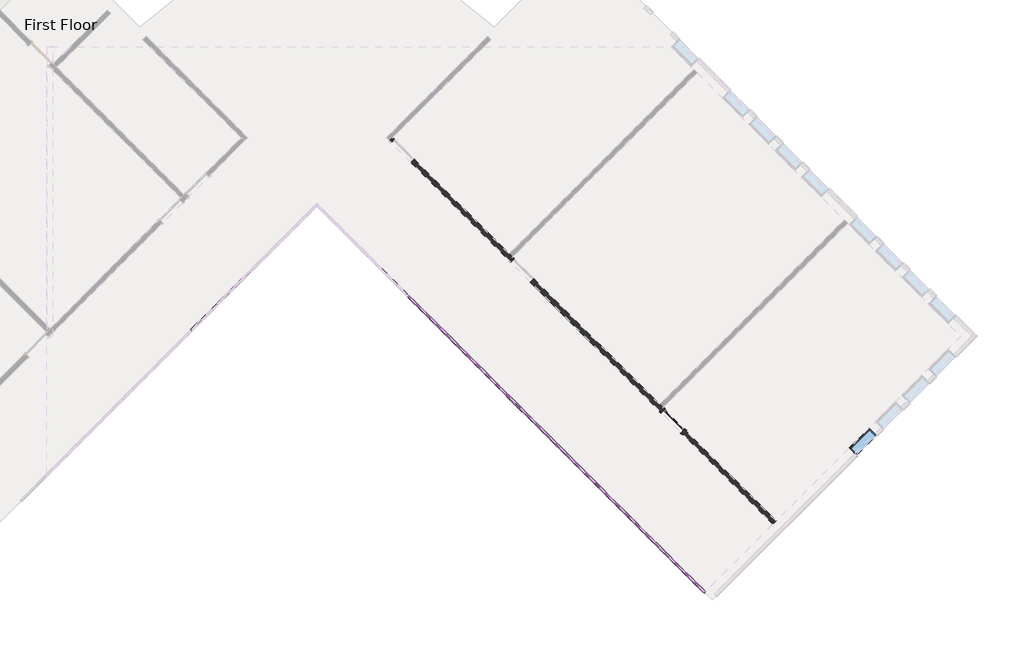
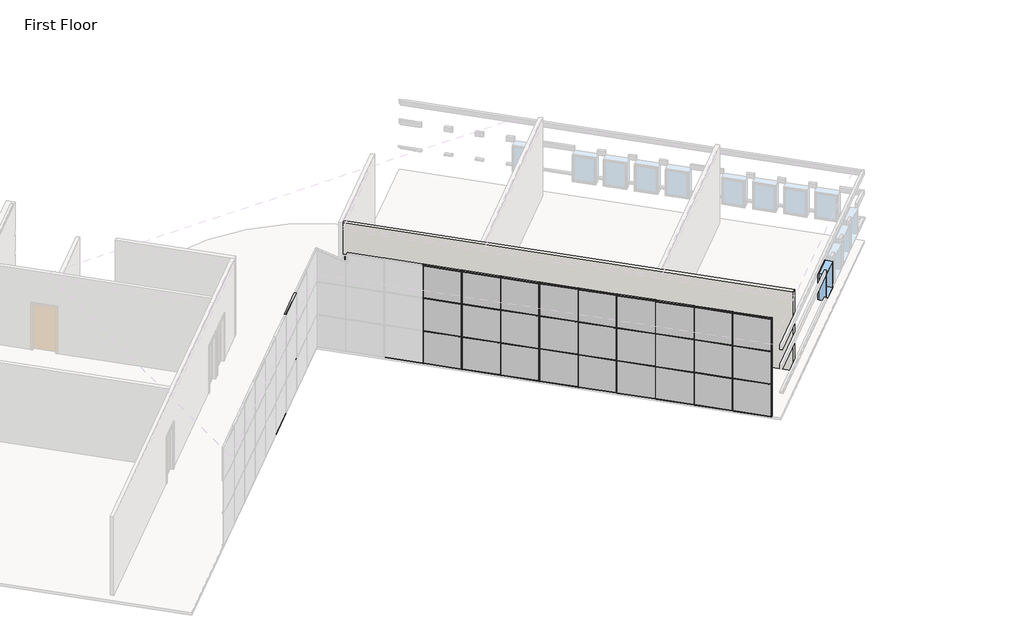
# One storey, part 2 of 5: 71 members, 27 plates, 1 door, 1 wall, 1 window.
"""IFC4 building model written with IfcOpenShell, lengths in millimetres."""

from ifc_helpers import new_model, si_unit, origin, place, context, project, spatial, faceted_brep, transform, mapped, element, save
from components import door_5f5b55da, member_6121af53, member_155beb68, member_f5090587, member_42be4715, member_b8a5b5c0, member_b87a50da, system_panel_glazed_f8555db4, system_panel_glazed_da345f4e, system_panel_glazed_d4009c89, system_panel_glazed_f1e4c5b0, system_panel_solid_99f695d0, system_panel_solid_2f1037e2, window_15c49d37

model = new_model("IFC4")

# Units and contexts
model_context = context("Model", 3, world=origin())
ifc_project = project(units=[si_unit("LENGTHUNIT", "METRE", prefix="MILLI")], contexts=[model_context])

# Site, building, storey
site = spatial("IfcSite", under=ifc_project)
building = spatial("IfcBuilding", under=site)
storey = spatial("IfcBuildingStorey", under=building, Name="First Floor", Elevation=0.0)

# Door
placement = place(None, origin())
door_shape = door_5f5b55da(model_context)
element("IfcDoor", 1, ObjectType="Single-Glass 1 : 36\" x 84\"", at=placement, inside=storey, context=model_context, shape_type="MappedRepresentation", body=[
    mapped(door_shape, transform((8770.3835686, -4126.1534594, 0.0), x_axis=(-0.7071067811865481, 0.7071067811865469, 0.0), y_axis=(-0.7071067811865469, -0.7071067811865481, 0.0), z_axis=(0.0, 0.0, 1.0))),
])

# Members
member_shape = member_6121af53(model_context)
element("IfcMember", 2, ObjectType="Rectangular Mullion : 1.5\" x 2.5\" Rectangular", at=placement, inside=storey, context=model_context, shape_type="MappedRepresentation", body=[
    mapped(member_shape, transform((-6087.4501837, -266.8883914, 4572.0), x_axis=(0.0, 0.0, 1.0), y_axis=(-0.7071067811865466, 0.7071067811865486, 0.0), z_axis=(-0.7071067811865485, -0.7071067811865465, 0.0))),
])
element("IfcMember", 3, ObjectType="Rectangular Mullion : 1.5\" x 2.5\" Rectangular", at=placement, inside=storey, context=model_context, shape_type="MappedRepresentation", body=[
    mapped(member_shape, transform((2284.3935852, -2199.8885214, 4572.0), x_axis=(0.0, 0.0, 1.0), y_axis=(0.7071067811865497, 0.7071067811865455, 0.0), z_axis=(-0.7071067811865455, 0.7071067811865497, 0.0))),
])
element("IfcMember", 4, ObjectType="Rectangular Mullion : 1.5\" x 2.5\" Rectangular", at=placement, inside=storey, context=model_context, shape_type="MappedRepresentation", body=[
    mapped(member_shape, transform((3362.0243197, -3277.519256, 4572.0), x_axis=(0.0, 0.0, 1.0), y_axis=(0.70710678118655, 0.707106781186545, 0.0), z_axis=(-0.707106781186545, 0.70710678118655, 0.0))),
])
element("IfcMember", 5, ObjectType="Rectangular Mullion : 1.5\" x 2.5\" Rectangular", at=placement, inside=storey, context=model_context, shape_type="MappedRepresentation", body=[
    mapped(member_shape, transform((4439.6550542, -4355.1499905, 4572.0), x_axis=(0.0, 0.0, 1.0), y_axis=(0.7071067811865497, 0.7071067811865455, 0.0), z_axis=(-0.7071067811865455, 0.7071067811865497, 0.0))),
])
element("IfcMember", 6, ObjectType="Rectangular Mullion : 1.5\" x 2.5\" Rectangular", at=placement, inside=storey, context=model_context, shape_type="MappedRepresentation", body=[
    mapped(member_shape, transform((5517.2857887, -5432.780725, 4572.0), x_axis=(0.0, 0.0, 1.0), y_axis=(0.7071067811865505, 0.7071067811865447, 0.0), z_axis=(-0.7071067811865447, 0.7071067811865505, 0.0))),
])
element("IfcMember", 7, ObjectType="Rectangular Mullion : 1.5\" x 2.5\" Rectangular", at=placement, inside=storey, context=model_context, shape_type="MappedRepresentation", body=[
    mapped(member_shape, transform((6594.9165233, -6510.4114596, 4572.0), x_axis=(0.0, 0.0, 1.0), y_axis=(0.7071067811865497, 0.7071067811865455, 0.0), z_axis=(-0.7071067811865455, 0.7071067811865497, 0.0))),
])
element("IfcMember", 8, ObjectType="Rectangular Mullion : 1.5\" x 2.5\" Rectangular", at=placement, inside=storey, context=model_context, shape_type="MappedRepresentation", body=[
    mapped(member_shape, transform((7672.5472578, -7588.0421941, 4572.0), x_axis=(0.0, 0.0, 1.0), y_axis=(0.7071067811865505, 0.7071067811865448, 0.0), z_axis=(-0.7071067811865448, 0.7071067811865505, 0.0))),
])
element("IfcMember", 9, ObjectType="Rectangular Mullion : 1.5\" x 2.5\" Rectangular", at=placement, inside=storey, context=model_context, shape_type="MappedRepresentation", body=[
    mapped(member_shape, transform((1206.7628506, -1122.2577869, 4572.0), x_axis=(0.0, 0.0, 1.0), y_axis=(0.70710678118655, 0.707106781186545, 0.0), z_axis=(-0.707106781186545, 0.70710678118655, 0.0))),
])
element("IfcMember", 10, ObjectType="Rectangular Mullion : 1.5\" x 2.5\" Rectangular", at=placement, inside=storey, context=model_context, shape_type="MappedRepresentation", body=[
    mapped(member_shape, transform((129.1321161, -44.6270524, 4572.0), x_axis=(0.0, 0.0, 1.0), y_axis=(0.7071067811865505, 0.7071067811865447, 0.0), z_axis=(-0.7071067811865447, 0.7071067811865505, 0.0))),
])
member_2_shape = member_155beb68(model_context)
element("IfcMember", 11, ObjectType="Rectangular Mullion : 1.5\" x 2.5\" Rectangular", at=placement, inside=storey, context=model_context, shape_type="MappedRepresentation", body=[
    mapped(member_2_shape, transform((5503.8154046, -5419.3103408, 1524.0), x_axis=(-0.7071067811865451, 0.70710678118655, 0.0), y_axis=(0.70710678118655, 0.7071067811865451, 0.0), z_axis=(0.0, 0.0, -1.0))),
])
element("IfcMember", 12, ObjectType="Rectangular Mullion : 1.5\" x 2.5\" Rectangular", at=placement, inside=storey, context=model_context, shape_type="MappedRepresentation", body=[
    mapped(member_2_shape, transform((4426.18467, -4341.6796063, 1524.0), x_axis=(-0.7071067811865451, 0.70710678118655, 0.0), y_axis=(0.70710678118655, 0.7071067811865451, 0.0), z_axis=(0.0, 0.0, -1.0))),
])
element("IfcMember", 13, ObjectType="Rectangular Mullion : 1.5\" x 2.5\" Rectangular", at=placement, inside=storey, context=model_context, shape_type="MappedRepresentation", body=[
    mapped(member_2_shape, transform((3348.5539355, -3264.0488718, 1524.0), x_axis=(-0.7071067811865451, 0.70710678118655, 0.0), y_axis=(0.70710678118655, 0.7071067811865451, 0.0), z_axis=(0.0, 0.0, -1.0))),
])
element("IfcMember", 14, ObjectType="Rectangular Mullion : 1.5\" x 2.5\" Rectangular", at=placement, inside=storey, context=model_context, shape_type="MappedRepresentation", body=[
    mapped(member_2_shape, transform((2270.923201, -2186.4181373, 1524.0), x_axis=(-0.7071067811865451, 0.70710678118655, 0.0), y_axis=(0.70710678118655, 0.7071067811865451, 0.0), z_axis=(0.0, 0.0, -1.0))),
])
element("IfcMember", 15, ObjectType="Rectangular Mullion : 1.5\" x 2.5\" Rectangular", at=placement, inside=storey, context=model_context, shape_type="MappedRepresentation", body=[
    mapped(member_2_shape, transform((1193.2924664, -1108.7874027, 1524.0), x_axis=(-0.7071067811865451, 0.70710678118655, 0.0), y_axis=(0.70710678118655, 0.7071067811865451, 0.0), z_axis=(0.0, 0.0, -1.0))),
])
element("IfcMember", 16, ObjectType="Rectangular Mullion : 1.5\" x 2.5\" Rectangular", at=placement, inside=storey, context=model_context, shape_type="MappedRepresentation", body=[
    mapped(member_2_shape, transform((115.6617319, -31.1566682, 1524.0), x_axis=(-0.7071067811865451, 0.70710678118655, 0.0), y_axis=(0.70710678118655, 0.7071067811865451, 0.0), z_axis=(0.0, 0.0, -1.0))),
])
element("IfcMember", 17, ObjectType="Rectangular Mullion : 1.5\" x 2.5\" Rectangular", at=placement, inside=storey, context=model_context, shape_type="MappedRepresentation", body=[
    mapped(member_2_shape, transform((8736.7076081, -8652.2025444, 1524.0), x_axis=(-0.7071067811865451, 0.70710678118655, 0.0), y_axis=(0.70710678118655, 0.7071067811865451, 0.0), z_axis=(0.0, 0.0, -1.0))),
])
element("IfcMember", 18, ObjectType="Rectangular Mullion : 1.5\" x 2.5\" Rectangular", at=placement, inside=storey, context=model_context, shape_type="MappedRepresentation", body=[
    mapped(member_2_shape, transform((7659.0768736, -7574.5718099, 1524.0), x_axis=(-0.7071067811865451, 0.70710678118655, 0.0), y_axis=(0.70710678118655, 0.7071067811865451, 0.0), z_axis=(0.0, 0.0, -1.0))),
])
element("IfcMember", 19, ObjectType="Rectangular Mullion : 1.5\" x 2.5\" Rectangular", at=placement, inside=storey, context=model_context, shape_type="MappedRepresentation", body=[
    mapped(member_2_shape, transform((6581.4461391, -6496.9410754, 1524.0), x_axis=(-0.7071067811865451, 0.70710678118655, 0.0), y_axis=(0.70710678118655, 0.7071067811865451, 0.0), z_axis=(0.0, 0.0, -1.0))),
])
element("IfcMember", 20, ObjectType="Rectangular Mullion : 1.5\" x 2.5\" Rectangular", at=placement, inside=storey, context=model_context, shape_type="MappedRepresentation", body=[
    mapped(member_2_shape, transform((5503.8154046, -5419.3103408, 3048.0), x_axis=(-0.7071067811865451, 0.70710678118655, 0.0), y_axis=(0.70710678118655, 0.7071067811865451, 0.0), z_axis=(0.0, 0.0, -1.0))),
])
element("IfcMember", 21, ObjectType="Rectangular Mullion : 1.5\" x 2.5\" Rectangular", at=placement, inside=storey, context=model_context, shape_type="MappedRepresentation", body=[
    mapped(member_2_shape, transform((4426.18467, -4341.6796063, 3048.0), x_axis=(-0.7071067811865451, 0.70710678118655, 0.0), y_axis=(0.70710678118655, 0.7071067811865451, 0.0), z_axis=(0.0, 0.0, -1.0))),
])
element("IfcMember", 22, ObjectType="Rectangular Mullion : 1.5\" x 2.5\" Rectangular", at=placement, inside=storey, context=model_context, shape_type="MappedRepresentation", body=[
    mapped(member_2_shape, transform((3348.5539355, -3264.0488718, 3048.0), x_axis=(-0.7071067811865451, 0.70710678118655, 0.0), y_axis=(0.70710678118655, 0.7071067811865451, 0.0), z_axis=(0.0, 0.0, -1.0))),
])
element("IfcMember", 23, ObjectType="Rectangular Mullion : 1.5\" x 2.5\" Rectangular", at=placement, inside=storey, context=model_context, shape_type="MappedRepresentation", body=[
    mapped(member_2_shape, transform((2270.923201, -2186.4181373, 3048.0), x_axis=(-0.7071067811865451, 0.70710678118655, 0.0), y_axis=(0.70710678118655, 0.7071067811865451, 0.0), z_axis=(0.0, 0.0, -1.0))),
])
element("IfcMember", 24, ObjectType="Rectangular Mullion : 1.5\" x 2.5\" Rectangular", at=placement, inside=storey, context=model_context, shape_type="MappedRepresentation", body=[
    mapped(member_2_shape, transform((1193.2924664, -1108.7874027, 3048.0), x_axis=(-0.7071067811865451, 0.70710678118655, 0.0), y_axis=(0.70710678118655, 0.7071067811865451, 0.0), z_axis=(0.0, 0.0, -1.0))),
])
element("IfcMember", 25, ObjectType="Rectangular Mullion : 1.5\" x 2.5\" Rectangular", at=placement, inside=storey, context=model_context, shape_type="MappedRepresentation", body=[
    mapped(member_2_shape, transform((115.6617319, -31.1566682, 3048.0), x_axis=(-0.7071067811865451, 0.70710678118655, 0.0), y_axis=(0.70710678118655, 0.7071067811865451, 0.0), z_axis=(0.0, 0.0, -1.0))),
])
element("IfcMember", 26, ObjectType="Rectangular Mullion : 1.5\" x 2.5\" Rectangular", at=placement, inside=storey, context=model_context, shape_type="MappedRepresentation", body=[
    mapped(member_2_shape, transform((8736.7076081, -8652.2025444, 3048.0), x_axis=(-0.7071067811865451, 0.70710678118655, 0.0), y_axis=(0.70710678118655, 0.7071067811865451, 0.0), z_axis=(0.0, 0.0, -1.0))),
])
element("IfcMember", 27, ObjectType="Rectangular Mullion : 1.5\" x 2.5\" Rectangular", at=placement, inside=storey, context=model_context, shape_type="MappedRepresentation", body=[
    mapped(member_2_shape, transform((7659.0768736, -7574.5718099, 3048.0), x_axis=(-0.7071067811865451, 0.70710678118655, 0.0), y_axis=(0.70710678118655, 0.7071067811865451, 0.0), z_axis=(0.0, 0.0, -1.0))),
])
element("IfcMember", 28, ObjectType="Rectangular Mullion : 1.5\" x 2.5\" Rectangular", at=placement, inside=storey, context=model_context, shape_type="MappedRepresentation", body=[
    mapped(member_2_shape, transform((6581.4461391, -6496.9410754, 3048.0), x_axis=(-0.7071067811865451, 0.70710678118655, 0.0), y_axis=(0.70710678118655, 0.7071067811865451, 0.0), z_axis=(0.0, 0.0, -1.0))),
])
element("IfcMember", 29, ObjectType="Rectangular Mullion : 1.5\" x 2.5\" Rectangular", at=placement, inside=storey, context=model_context, shape_type="MappedRepresentation", body=[
    mapped(member_2_shape, transform((-6100.9205679, -280.3587756, 0.0), x_axis=(-0.7071067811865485, -0.7071067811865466, 0.0), y_axis=(-0.7071067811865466, 0.7071067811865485, 0.0), z_axis=(0.0, 0.0, -1.0))),
])
element("IfcMember", 30, ObjectType="Rectangular Mullion : 1.5\" x 2.5\" Rectangular", at=placement, inside=storey, context=model_context, shape_type="MappedRepresentation", body=[
    mapped(member_2_shape, transform((115.6617319, -31.1566682, 0.0), x_axis=(-0.7071067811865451, 0.70710678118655, 0.0), y_axis=(0.70710678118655, 0.7071067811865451, 0.0), z_axis=(0.0, 0.0, -1.0))),
])
element("IfcMember", 31, ObjectType="Rectangular Mullion : 1.5\" x 2.5\" Rectangular", at=placement, inside=storey, context=model_context, shape_type="MappedRepresentation", body=[
    mapped(member_2_shape, transform((1193.2924664, -1108.7874027, 0.0), x_axis=(-0.7071067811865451, 0.70710678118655, 0.0), y_axis=(0.70710678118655, 0.7071067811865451, 0.0), z_axis=(0.0, 0.0, -1.0))),
])
element("IfcMember", 32, ObjectType="Rectangular Mullion : 1.5\" x 2.5\" Rectangular", at=placement, inside=storey, context=model_context, shape_type="MappedRepresentation", body=[
    mapped(member_2_shape, transform((2270.923201, -2186.4181373, 0.0), x_axis=(-0.7071067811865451, 0.70710678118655, 0.0), y_axis=(0.70710678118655, 0.7071067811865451, 0.0), z_axis=(0.0, 0.0, -1.0))),
])
element("IfcMember", 33, ObjectType="Rectangular Mullion : 1.5\" x 2.5\" Rectangular", at=placement, inside=storey, context=model_context, shape_type="MappedRepresentation", body=[
    mapped(member_2_shape, transform((3348.5539355, -3264.0488718, 0.0), x_axis=(-0.7071067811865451, 0.70710678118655, 0.0), y_axis=(0.70710678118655, 0.7071067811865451, 0.0), z_axis=(0.0, 0.0, -1.0))),
])
element("IfcMember", 34, ObjectType="Rectangular Mullion : 1.5\" x 2.5\" Rectangular", at=placement, inside=storey, context=model_context, shape_type="MappedRepresentation", body=[
    mapped(member_2_shape, transform((4426.18467, -4341.6796063, 0.0), x_axis=(-0.7071067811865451, 0.70710678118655, 0.0), y_axis=(0.70710678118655, 0.7071067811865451, 0.0), z_axis=(0.0, 0.0, -1.0))),
])
element("IfcMember", 35, ObjectType="Rectangular Mullion : 1.5\" x 2.5\" Rectangular", at=placement, inside=storey, context=model_context, shape_type="MappedRepresentation", body=[
    mapped(member_2_shape, transform((5503.8154046, -5419.3103408, 0.0), x_axis=(-0.7071067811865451, 0.70710678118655, 0.0), y_axis=(0.70710678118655, 0.7071067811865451, 0.0), z_axis=(0.0, 0.0, -1.0))),
])
element("IfcMember", 36, ObjectType="Rectangular Mullion : 1.5\" x 2.5\" Rectangular", at=placement, inside=storey, context=model_context, shape_type="MappedRepresentation", body=[
    mapped(member_2_shape, transform((6581.4461391, -6496.9410754, 0.0), x_axis=(-0.7071067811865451, 0.70710678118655, 0.0), y_axis=(0.70710678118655, 0.7071067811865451, 0.0), z_axis=(0.0, 0.0, -1.0))),
])
element("IfcMember", 37, ObjectType="Rectangular Mullion : 1.5\" x 2.5\" Rectangular", at=placement, inside=storey, context=model_context, shape_type="MappedRepresentation", body=[
    mapped(member_2_shape, transform((7659.0768736, -7574.5718099, 0.0), x_axis=(-0.7071067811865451, 0.70710678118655, 0.0), y_axis=(0.70710678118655, 0.7071067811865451, 0.0), z_axis=(0.0, 0.0, -1.0))),
])
element("IfcMember", 38, ObjectType="Rectangular Mullion : 1.5\" x 2.5\" Rectangular", at=placement, inside=storey, context=model_context, shape_type="MappedRepresentation", body=[
    mapped(member_2_shape, transform((8736.7076081, -8652.2025444, 0.0), x_axis=(-0.7071067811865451, 0.70710678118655, 0.0), y_axis=(0.70710678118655, 0.7071067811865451, 0.0), z_axis=(0.0, 0.0, -1.0))),
])
member_3_shape = member_f5090587(model_context)
element("IfcMember", 39, ObjectType="Rectangular Mullion : 1.5\" x 2.5\" Rectangular", at=placement, inside=storey, context=model_context, shape_type="MappedRepresentation", body=[
    mapped(member_3_shape, transform((8750.1779923, -8665.6729286, 3048.0), x_axis=(0.0, 0.0, 1.0), y_axis=(0.70710678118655, 0.707106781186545, 0.0), z_axis=(-0.7071067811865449, 0.7071067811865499, 0.0))),
])
element("IfcMember", 40, ObjectType="Rectangular Mullion : 1.5\" x 2.5\" Rectangular", at=placement, inside=storey, context=model_context, shape_type="MappedRepresentation", body=[
    mapped(member_3_shape, transform((8750.1779923, -8665.6729286, 1524.0), x_axis=(0.0, 0.0, 1.0), y_axis=(0.7071067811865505, 0.7071067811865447, 0.0), z_axis=(-0.7071067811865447, 0.7071067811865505, 0.0))),
])
member_4_shape = member_42be4715(model_context)
element("IfcMember", 41, ObjectType="Rectangular Mullion : 1.5\" x 2.5\" Rectangular", at=placement, inside=storey, context=model_context, shape_type="MappedRepresentation", body=[
    mapped(member_4_shape, transform((-6087.4501837, -266.8883914, 1524.0), x_axis=(0.0, 0.0, 1.0), y_axis=(-0.7071067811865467, 0.7071067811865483, 0.0), z_axis=(-0.7071067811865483, -0.7071067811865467, 0.0))),
])
element("IfcMember", 42, ObjectType="Rectangular Mullion : 1.5\" x 2.5\" Rectangular", at=placement, inside=storey, context=model_context, shape_type="MappedRepresentation", body=[
    mapped(member_4_shape, transform((129.1321161, -44.6270524, 3048.0), x_axis=(0.0, 0.0, 1.0), y_axis=(0.7071067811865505, 0.7071067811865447, 0.0), z_axis=(-0.7071067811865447, 0.7071067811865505, 0.0))),
])
element("IfcMember", 43, ObjectType="Rectangular Mullion : 1.5\" x 2.5\" Rectangular", at=placement, inside=storey, context=model_context, shape_type="MappedRepresentation", body=[
    mapped(member_4_shape, transform((1206.7628506, -1122.2577869, 3048.0), x_axis=(0.0, 0.0, 1.0), y_axis=(0.70710678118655, 0.707106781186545, 0.0), z_axis=(-0.707106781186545, 0.70710678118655, 0.0))),
])
element("IfcMember", 44, ObjectType="Rectangular Mullion : 1.5\" x 2.5\" Rectangular", at=placement, inside=storey, context=model_context, shape_type="MappedRepresentation", body=[
    mapped(member_4_shape, transform((2284.3935852, -2199.8885214, 3048.0), x_axis=(0.0, 0.0, 1.0), y_axis=(0.7071067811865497, 0.7071067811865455, 0.0), z_axis=(-0.7071067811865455, 0.7071067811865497, 0.0))),
])
element("IfcMember", 45, ObjectType="Rectangular Mullion : 1.5\" x 2.5\" Rectangular", at=placement, inside=storey, context=model_context, shape_type="MappedRepresentation", body=[
    mapped(member_4_shape, transform((3362.0243197, -3277.519256, 3048.0), x_axis=(0.0, 0.0, 1.0), y_axis=(0.70710678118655, 0.707106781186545, 0.0), z_axis=(-0.707106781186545, 0.70710678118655, 0.0))),
])
element("IfcMember", 46, ObjectType="Rectangular Mullion : 1.5\" x 2.5\" Rectangular", at=placement, inside=storey, context=model_context, shape_type="MappedRepresentation", body=[
    mapped(member_4_shape, transform((4439.6550542, -4355.1499905, 3048.0), x_axis=(0.0, 0.0, 1.0), y_axis=(0.7071067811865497, 0.7071067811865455, 0.0), z_axis=(-0.7071067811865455, 0.7071067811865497, 0.0))),
])
element("IfcMember", 47, ObjectType="Rectangular Mullion : 1.5\" x 2.5\" Rectangular", at=placement, inside=storey, context=model_context, shape_type="MappedRepresentation", body=[
    mapped(member_4_shape, transform((5517.2857887, -5432.780725, 3048.0), x_axis=(0.0, 0.0, 1.0), y_axis=(0.7071067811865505, 0.7071067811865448, 0.0), z_axis=(-0.7071067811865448, 0.7071067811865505, 0.0))),
])
element("IfcMember", 48, ObjectType="Rectangular Mullion : 1.5\" x 2.5\" Rectangular", at=placement, inside=storey, context=model_context, shape_type="MappedRepresentation", body=[
    mapped(member_4_shape, transform((6594.9165233, -6510.4114596, 3048.0), x_axis=(0.0, 0.0, 1.0), y_axis=(0.7071067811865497, 0.7071067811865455, 0.0), z_axis=(-0.7071067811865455, 0.7071067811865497, 0.0))),
])
element("IfcMember", 49, ObjectType="Rectangular Mullion : 1.5\" x 2.5\" Rectangular", at=placement, inside=storey, context=model_context, shape_type="MappedRepresentation", body=[
    mapped(member_4_shape, transform((7672.5472578, -7588.0421941, 3048.0), x_axis=(0.0, 0.0, 1.0), y_axis=(0.7071067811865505, 0.7071067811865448, 0.0), z_axis=(-0.7071067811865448, 0.7071067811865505, 0.0))),
])
element("IfcMember", 50, ObjectType="Rectangular Mullion : 1.5\" x 2.5\" Rectangular", at=placement, inside=storey, context=model_context, shape_type="MappedRepresentation", body=[
    mapped(member_4_shape, transform((129.1321161, -44.6270524, 1524.0), x_axis=(0.0, 0.0, 1.0), y_axis=(0.7071067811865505, 0.7071067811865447, 0.0), z_axis=(-0.7071067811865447, 0.7071067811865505, 0.0))),
])
element("IfcMember", 51, ObjectType="Rectangular Mullion : 1.5\" x 2.5\" Rectangular", at=placement, inside=storey, context=model_context, shape_type="MappedRepresentation", body=[
    mapped(member_4_shape, transform((1206.7628506, -1122.2577869, 1524.0), x_axis=(0.0, 0.0, 1.0), y_axis=(0.7071067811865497, 0.7071067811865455, 0.0), z_axis=(-0.7071067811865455, 0.7071067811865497, 0.0))),
])
element("IfcMember", 52, ObjectType="Rectangular Mullion : 1.5\" x 2.5\" Rectangular", at=placement, inside=storey, context=model_context, shape_type="MappedRepresentation", body=[
    mapped(member_4_shape, transform((2284.3935852, -2199.8885214, 1524.0), x_axis=(0.0, 0.0, 1.0), y_axis=(0.70710678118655, 0.707106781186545, 0.0), z_axis=(-0.707106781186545, 0.70710678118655, 0.0))),
])
element("IfcMember", 53, ObjectType="Rectangular Mullion : 1.5\" x 2.5\" Rectangular", at=placement, inside=storey, context=model_context, shape_type="MappedRepresentation", body=[
    mapped(member_4_shape, transform((3362.0243197, -3277.519256, 1524.0), x_axis=(0.0, 0.0, 1.0), y_axis=(0.70710678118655, 0.707106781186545, 0.0), z_axis=(-0.707106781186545, 0.70710678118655, 0.0))),
])
element("IfcMember", 54, ObjectType="Rectangular Mullion : 1.5\" x 2.5\" Rectangular", at=placement, inside=storey, context=model_context, shape_type="MappedRepresentation", body=[
    mapped(member_4_shape, transform((4439.6550542, -4355.1499905, 1524.0), x_axis=(0.0, 0.0, 1.0), y_axis=(0.7071067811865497, 0.7071067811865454, 0.0), z_axis=(-0.7071067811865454, 0.7071067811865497, 0.0))),
])
element("IfcMember", 55, ObjectType="Rectangular Mullion : 1.5\" x 2.5\" Rectangular", at=placement, inside=storey, context=model_context, shape_type="MappedRepresentation", body=[
    mapped(member_4_shape, transform((5517.2857887, -5432.780725, 1524.0), x_axis=(0.0, 0.0, 1.0), y_axis=(0.7071067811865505, 0.7071067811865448, 0.0), z_axis=(-0.7071067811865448, 0.7071067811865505, 0.0))),
])
element("IfcMember", 56, ObjectType="Rectangular Mullion : 1.5\" x 2.5\" Rectangular", at=placement, inside=storey, context=model_context, shape_type="MappedRepresentation", body=[
    mapped(member_4_shape, transform((6594.9165233, -6510.4114596, 1524.0), x_axis=(0.0, 0.0, 1.0), y_axis=(0.7071067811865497, 0.7071067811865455, 0.0), z_axis=(-0.7071067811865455, 0.7071067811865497, 0.0))),
])
element("IfcMember", 57, ObjectType="Rectangular Mullion : 1.5\" x 2.5\" Rectangular", at=placement, inside=storey, context=model_context, shape_type="MappedRepresentation", body=[
    mapped(member_4_shape, transform((7672.5472578, -7588.0421941, 1524.0), x_axis=(0.0, 0.0, 1.0), y_axis=(0.70710678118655, 0.707106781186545, 0.0), z_axis=(-0.707106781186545, 0.70710678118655, 0.0))),
])
member_5_shape = member_b8a5b5c0(model_context)
element("IfcMember", 58, ObjectType="Rectangular Mullion : 1.5\" x 2.5\" Rectangular", at=placement, inside=storey, context=model_context, shape_type="MappedRepresentation", body=[
    mapped(member_5_shape, transform((9787.3975743, -9702.8925106, 0.0), x_axis=(0.0, 0.0, -1.0), y_axis=(0.7071067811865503, 0.7071067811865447, 0.0), z_axis=(0.7071067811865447, -0.7071067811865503, 0.0))),
])
element("IfcMember", 59, ObjectType="Rectangular Mullion : 1.5\" x 2.5\" Rectangular", at=placement, inside=storey, context=model_context, shape_type="MappedRepresentation", body=[
    mapped(member_shape, transform((-6114.3909521, -293.8291597, 0.0), x_axis=(0.0, 0.0, -1.0), y_axis=(-0.7071067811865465, 0.7071067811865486, 0.0), z_axis=(0.7071067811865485, 0.7071067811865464, 0.0))),
])
element("IfcMember", 60, ObjectType="Rectangular Mullion : 1.5\" x 2.5\" Rectangular", at=placement, inside=storey, context=model_context, shape_type="MappedRepresentation", body=[
    mapped(member_shape, transform((6567.9757549, -6483.4706912, 0.0), x_axis=(0.0, 0.0, -1.0), y_axis=(0.7071067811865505, 0.7071067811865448, 0.0), z_axis=(0.7071067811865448, -0.7071067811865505, 0.0))),
])
element("IfcMember", 61, ObjectType="Rectangular Mullion : 1.5\" x 2.5\" Rectangular", at=placement, inside=storey, context=model_context, shape_type="MappedRepresentation", body=[
    mapped(member_shape, transform((7645.6064894, -7561.1014257, 0.0), x_axis=(0.0, 0.0, -1.0), y_axis=(0.7071067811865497, 0.7071067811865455, 0.0), z_axis=(0.7071067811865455, -0.7071067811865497, 0.0))),
])
element("IfcMember", 62, ObjectType="Rectangular Mullion : 1.5\" x 2.5\" Rectangular", at=placement, inside=storey, context=model_context, shape_type="MappedRepresentation", body=[
    mapped(member_shape, transform((8723.237224, -8638.7321603, 0.0), x_axis=(0.0, 0.0, -1.0), y_axis=(0.70710678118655, 0.707106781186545, 0.0), z_axis=(0.707106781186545, -0.70710678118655, 0.0))),
])
element("IfcMember", 63, ObjectType="Rectangular Mullion : 1.5\" x 2.5\" Rectangular", at=placement, inside=storey, context=model_context, shape_type="MappedRepresentation", body=[
    mapped(member_shape, transform((102.1913477, -17.686284, 0.0), x_axis=(0.0, 0.0, -1.0), y_axis=(0.7071067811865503, 0.7071067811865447, 0.0), z_axis=(0.7071067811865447, -0.7071067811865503, 0.0))),
])
element("IfcMember", 64, ObjectType="Rectangular Mullion : 1.5\" x 2.5\" Rectangular", at=placement, inside=storey, context=model_context, shape_type="MappedRepresentation", body=[
    mapped(member_shape, transform((1179.8220823, -1095.3170186, 0.0), x_axis=(0.0, 0.0, -1.0), y_axis=(0.7071067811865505, 0.7071067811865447, 0.0), z_axis=(0.7071067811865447, -0.7071067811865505, 0.0))),
])
element("IfcMember", 65, ObjectType="Rectangular Mullion : 1.5\" x 2.5\" Rectangular", at=placement, inside=storey, context=model_context, shape_type="MappedRepresentation", body=[
    mapped(member_shape, transform((2257.4528168, -2172.9477531, 0.0), x_axis=(0.0, 0.0, -1.0), y_axis=(0.7071067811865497, 0.7071067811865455, 0.0), z_axis=(0.7071067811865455, -0.7071067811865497, 0.0))),
])
element("IfcMember", 66, ObjectType="Rectangular Mullion : 1.5\" x 2.5\" Rectangular", at=placement, inside=storey, context=model_context, shape_type="MappedRepresentation", body=[
    mapped(member_shape, transform((3335.0835513, -3250.5784876, 0.0), x_axis=(0.0, 0.0, -1.0), y_axis=(0.70710678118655, 0.707106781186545, 0.0), z_axis=(0.707106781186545, -0.70710678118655, 0.0))),
])
element("IfcMember", 67, ObjectType="Rectangular Mullion : 1.5\" x 2.5\" Rectangular", at=placement, inside=storey, context=model_context, shape_type="MappedRepresentation", body=[
    mapped(member_shape, transform((4412.7142859, -4328.2092221, 0.0), x_axis=(0.0, 0.0, -1.0), y_axis=(0.70710678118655, 0.707106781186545, 0.0), z_axis=(0.707106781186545, -0.70710678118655, 0.0))),
])
element("IfcMember", 68, ObjectType="Rectangular Mullion : 1.5\" x 2.5\" Rectangular", at=placement, inside=storey, context=model_context, shape_type="MappedRepresentation", body=[
    mapped(member_shape, transform((5490.3450204, -5405.8399567, 0.0), x_axis=(0.0, 0.0, -1.0), y_axis=(0.7071067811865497, 0.7071067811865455, 0.0), z_axis=(0.7071067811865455, -0.7071067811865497, 0.0))),
])
element("IfcMember", 69, ObjectType="Rectangular Mullion : 1.5\" x 2.5\" Rectangular", at=placement, inside=storey, context=model_context, shape_type="MappedRepresentation", body=[
    mapped(member_5_shape, transform((8750.1779923, -8665.6729286, 4572.0), x_axis=(0.0, 0.0, 1.0), y_axis=(0.70710678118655, 0.707106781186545, 0.0), z_axis=(-0.7071067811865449, 0.7071067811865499, 0.0))),
])
member_6_shape = member_b87a50da(model_context)
element("IfcMember", 70, ObjectType="Rectangular Mullion : 1.5\" x 2.5\" Rectangular", at=placement, inside=storey, context=model_context, shape_type="MappedRepresentation", body=[
    mapped(member_6_shape, transform((9814.3383427, -9729.833279, 1524.0), x_axis=(0.7071067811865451, -0.70710678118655, 0.0), y_axis=(0.70710678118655, 0.7071067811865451, 0.0), z_axis=(0.0, 0.0, 1.0))),
])
element("IfcMember", 71, ObjectType="Rectangular Mullion : 1.5\" x 2.5\" Rectangular", at=placement, inside=storey, context=model_context, shape_type="MappedRepresentation", body=[
    mapped(member_6_shape, transform((9814.3383427, -9729.833279, 3048.0), x_axis=(0.7071067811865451, -0.70710678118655, 0.0), y_axis=(0.70710678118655, 0.7071067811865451, 0.0), z_axis=(0.0, 0.0, 1.0))),
])
element("IfcMember", 72, ObjectType="Rectangular Mullion : 1.5\" x 2.5\" Rectangular", at=placement, inside=storey, context=model_context, shape_type="MappedRepresentation", body=[
    mapped(member_6_shape, transform((9814.3383427, -9729.833279, 4572.0), x_axis=(0.7071067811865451, -0.70710678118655, 0.0), y_axis=(0.70710678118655, 0.7071067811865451, 0.0), z_axis=(0.0, 0.0, 1.0))),
])

# Plates
system_panel_glazed_shape = system_panel_glazed_f8555db4(model_context)
element("IfcPlate", 73, ObjectType="System Panel : Glazed", at=placement, inside=storey, context=model_context, shape_type="MappedRepresentation", body=[
    mapped(system_panel_glazed_shape, transform((9268.7877833, -9184.2827196, 38.1), x_axis=(-0.7071067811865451, 0.70710678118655, 0.0), y_axis=(-0.70710678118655, -0.7071067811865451, 0.0), z_axis=(0.0, 0.0, 1.0))),
])
system_panel_glazed_2_shape = system_panel_glazed_da345f4e(model_context)
element("IfcPlate", 74, ObjectType="System Panel : Glazed", at=placement, inside=storey, context=model_context, shape_type="MappedRepresentation", body=[
    mapped(system_panel_glazed_2_shape, transform((8197.8922409, -8113.3871772, 38.1), x_axis=(-0.7071067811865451, 0.70710678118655, 0.0), y_axis=(-0.70710678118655, -0.7071067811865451, 0.0), z_axis=(0.0, 0.0, 1.0))),
])
element("IfcPlate", 75, ObjectType="System Panel : Glazed", at=placement, inside=storey, context=model_context, shape_type="MappedRepresentation", body=[
    mapped(system_panel_glazed_2_shape, transform((7120.2615064, -7035.7564426, 38.1), x_axis=(-0.7071067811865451, 0.70710678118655, 0.0), y_axis=(-0.70710678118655, -0.7071067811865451, 0.0), z_axis=(0.0, 0.0, 1.0))),
])
element("IfcPlate", 76, ObjectType="System Panel : Glazed", at=placement, inside=storey, context=model_context, shape_type="MappedRepresentation", body=[
    mapped(system_panel_glazed_2_shape, transform((6042.6307718, -5958.1257081, 38.1), x_axis=(-0.7071067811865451, 0.70710678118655, 0.0), y_axis=(-0.70710678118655, -0.7071067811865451, 0.0), z_axis=(0.0, 0.0, 1.0))),
])
element("IfcPlate", 77, ObjectType="System Panel : Glazed", at=placement, inside=storey, context=model_context, shape_type="MappedRepresentation", body=[
    mapped(system_panel_glazed_2_shape, transform((4965.0000373, -4880.4949736, 38.1), x_axis=(-0.7071067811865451, 0.70710678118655, 0.0), y_axis=(-0.70710678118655, -0.7071067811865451, 0.0), z_axis=(0.0, 0.0, 1.0))),
])
element("IfcPlate", 78, ObjectType="System Panel : Glazed", at=placement, inside=storey, context=model_context, shape_type="MappedRepresentation", body=[
    mapped(system_panel_glazed_2_shape, transform((3887.3693028, -3802.8642391, 38.1), x_axis=(-0.7071067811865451, 0.70710678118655, 0.0), y_axis=(-0.70710678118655, -0.7071067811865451, 0.0), z_axis=(0.0, 0.0, 1.0))),
])
element("IfcPlate", 79, ObjectType="System Panel : Glazed", at=placement, inside=storey, context=model_context, shape_type="MappedRepresentation", body=[
    mapped(system_panel_glazed_2_shape, transform((2809.7385682, -2725.2335045, 38.1), x_axis=(-0.7071067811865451, 0.70710678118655, 0.0), y_axis=(-0.70710678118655, -0.7071067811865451, 0.0), z_axis=(0.0, 0.0, 1.0))),
])
element("IfcPlate", 80, ObjectType="System Panel : Glazed", at=placement, inside=storey, context=model_context, shape_type="MappedRepresentation", body=[
    mapped(system_panel_glazed_2_shape, transform((1732.1078337, -1647.60277, 38.1), x_axis=(-0.7071067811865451, 0.70710678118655, 0.0), y_axis=(-0.70710678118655, -0.7071067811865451, 0.0), z_axis=(0.0, 0.0, 1.0))),
])
element("IfcPlate", 81, ObjectType="System Panel : Glazed", at=placement, inside=storey, context=model_context, shape_type="MappedRepresentation", body=[
    mapped(system_panel_glazed_2_shape, transform((654.4770992, -569.9720355, 38.1), x_axis=(-0.7071067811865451, 0.70710678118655, 0.0), y_axis=(-0.70710678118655, -0.7071067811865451, 0.0), z_axis=(0.0, 0.0, 1.0))),
])
system_panel_glazed_3_shape = system_panel_glazed_d4009c89(model_context)
element("IfcPlate", 82, ObjectType="System Panel : Glazed", at=placement, inside=storey, context=model_context, shape_type="MappedRepresentation", body=[
    mapped(system_panel_glazed_3_shape, transform((9268.7877833, -9184.2827196, 1543.05), x_axis=(-0.7071067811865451, 0.70710678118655, 0.0), y_axis=(-0.70710678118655, -0.7071067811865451, 0.0), z_axis=(0.0, 0.0, 1.0))),
])
system_panel_glazed_4_shape = system_panel_glazed_f1e4c5b0(model_context)
element("IfcPlate", 83, ObjectType="System Panel : Glazed", at=placement, inside=storey, context=model_context, shape_type="MappedRepresentation", body=[
    mapped(system_panel_glazed_4_shape, transform((8197.8922409, -8113.3871772, 1543.05), x_axis=(-0.7071067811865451, 0.70710678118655, 0.0), y_axis=(-0.70710678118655, -0.7071067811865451, 0.0), z_axis=(0.0, 0.0, 1.0))),
])
element("IfcPlate", 84, ObjectType="System Panel : Glazed", at=placement, inside=storey, context=model_context, shape_type="MappedRepresentation", body=[
    mapped(system_panel_glazed_4_shape, transform((7120.2615064, -7035.7564426, 1543.05), x_axis=(-0.7071067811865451, 0.70710678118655, 0.0), y_axis=(-0.70710678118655, -0.7071067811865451, 0.0), z_axis=(0.0, 0.0, 1.0))),
])
element("IfcPlate", 85, ObjectType="System Panel : Glazed", at=placement, inside=storey, context=model_context, shape_type="MappedRepresentation", body=[
    mapped(system_panel_glazed_4_shape, transform((6042.6307718, -5958.1257081, 1543.05), x_axis=(-0.7071067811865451, 0.70710678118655, 0.0), y_axis=(-0.70710678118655, -0.7071067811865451, 0.0), z_axis=(0.0, 0.0, 1.0))),
])
element("IfcPlate", 86, ObjectType="System Panel : Glazed", at=placement, inside=storey, context=model_context, shape_type="MappedRepresentation", body=[
    mapped(system_panel_glazed_4_shape, transform((4965.0000373, -4880.4949736, 1543.05), x_axis=(-0.7071067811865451, 0.70710678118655, 0.0), y_axis=(-0.70710678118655, -0.7071067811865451, 0.0), z_axis=(0.0, 0.0, 1.0))),
])
element("IfcPlate", 87, ObjectType="System Panel : Glazed", at=placement, inside=storey, context=model_context, shape_type="MappedRepresentation", body=[
    mapped(system_panel_glazed_4_shape, transform((3887.3693028, -3802.8642391, 1543.05), x_axis=(-0.7071067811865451, 0.70710678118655, 0.0), y_axis=(-0.70710678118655, -0.7071067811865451, 0.0), z_axis=(0.0, 0.0, 1.0))),
])
element("IfcPlate", 88, ObjectType="System Panel : Glazed", at=placement, inside=storey, context=model_context, shape_type="MappedRepresentation", body=[
    mapped(system_panel_glazed_4_shape, transform((2809.7385682, -2725.2335045, 1543.05), x_axis=(-0.7071067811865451, 0.70710678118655, 0.0), y_axis=(-0.70710678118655, -0.7071067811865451, 0.0), z_axis=(0.0, 0.0, 1.0))),
])
element("IfcPlate", 89, ObjectType="System Panel : Glazed", at=placement, inside=storey, context=model_context, shape_type="MappedRepresentation", body=[
    mapped(system_panel_glazed_4_shape, transform((1732.1078337, -1647.60277, 1543.05), x_axis=(-0.7071067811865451, 0.70710678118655, 0.0), y_axis=(-0.70710678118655, -0.7071067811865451, 0.0), z_axis=(0.0, 0.0, 1.0))),
])
element("IfcPlate", 90, ObjectType="System Panel : Glazed", at=placement, inside=storey, context=model_context, shape_type="MappedRepresentation", body=[
    mapped(system_panel_glazed_4_shape, transform((654.4770992, -569.9720355, 1543.05), x_axis=(-0.7071067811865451, 0.70710678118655, 0.0), y_axis=(-0.70710678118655, -0.7071067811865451, 0.0), z_axis=(0.0, 0.0, 1.0))),
])
system_panel_solid_shape = system_panel_solid_99f695d0(model_context)
element("IfcPlate", 91, ObjectType="System Panel : Solid", at=placement, inside=storey, context=model_context, shape_type="MappedRepresentation", body=[
    mapped(system_panel_solid_shape, transform((9268.7877833, -9184.2827196, 3067.05), x_axis=(-0.7071067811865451, 0.70710678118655, 0.0), y_axis=(-0.70710678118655, -0.7071067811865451, 0.0), z_axis=(0.0, 0.0, 1.0))),
])
system_panel_solid_2_shape = system_panel_solid_2f1037e2(model_context)
element("IfcPlate", 92, ObjectType="System Panel : Solid", at=placement, inside=storey, context=model_context, shape_type="MappedRepresentation", body=[
    mapped(system_panel_solid_2_shape, transform((8197.8922409, -8113.3871772, 3067.05), x_axis=(-0.7071067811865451, 0.70710678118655, 0.0), y_axis=(-0.70710678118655, -0.7071067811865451, 0.0), z_axis=(0.0, 0.0, 1.0))),
])
element("IfcPlate", 93, ObjectType="System Panel : Solid", at=placement, inside=storey, context=model_context, shape_type="MappedRepresentation", body=[
    mapped(system_panel_solid_2_shape, transform((7120.2615064, -7035.7564426, 3067.05), x_axis=(-0.7071067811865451, 0.70710678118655, 0.0), y_axis=(-0.70710678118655, -0.7071067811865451, 0.0), z_axis=(0.0, 0.0, 1.0))),
])
element("IfcPlate", 94, ObjectType="System Panel : Solid", at=placement, inside=storey, context=model_context, shape_type="MappedRepresentation", body=[
    mapped(system_panel_solid_2_shape, transform((6042.6307718, -5958.1257081, 3067.05), x_axis=(-0.7071067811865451, 0.70710678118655, 0.0), y_axis=(-0.70710678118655, -0.7071067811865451, 0.0), z_axis=(0.0, 0.0, 1.0))),
])
element("IfcPlate", 95, ObjectType="System Panel : Solid", at=placement, inside=storey, context=model_context, shape_type="MappedRepresentation", body=[
    mapped(system_panel_solid_2_shape, transform((4965.0000373, -4880.4949736, 3067.05), x_axis=(-0.7071067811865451, 0.70710678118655, 0.0), y_axis=(-0.70710678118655, -0.7071067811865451, 0.0), z_axis=(0.0, 0.0, 1.0))),
])
element("IfcPlate", 96, ObjectType="System Panel : Solid", at=placement, inside=storey, context=model_context, shape_type="MappedRepresentation", body=[
    mapped(system_panel_solid_2_shape, transform((3887.3693028, -3802.8642391, 3067.05), x_axis=(-0.7071067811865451, 0.70710678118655, 0.0), y_axis=(-0.70710678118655, -0.7071067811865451, 0.0), z_axis=(0.0, 0.0, 1.0))),
])
element("IfcPlate", 97, ObjectType="System Panel : Solid", at=placement, inside=storey, context=model_context, shape_type="MappedRepresentation", body=[
    mapped(system_panel_solid_2_shape, transform((2809.7385682, -2725.2335045, 3067.05), x_axis=(-0.7071067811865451, 0.70710678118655, 0.0), y_axis=(-0.70710678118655, -0.7071067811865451, 0.0), z_axis=(0.0, 0.0, 1.0))),
])
element("IfcPlate", 98, ObjectType="System Panel : Solid", at=placement, inside=storey, context=model_context, shape_type="MappedRepresentation", body=[
    mapped(system_panel_solid_2_shape, transform((1732.1078337, -1647.60277, 3067.05), x_axis=(-0.7071067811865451, 0.70710678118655, 0.0), y_axis=(-0.70710678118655, -0.7071067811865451, 0.0), z_axis=(0.0, 0.0, 1.0))),
])
element("IfcPlate", 99, ObjectType="System Panel : Solid", at=placement, inside=storey, context=model_context, shape_type="MappedRepresentation", body=[
    mapped(system_panel_solid_2_shape, transform((654.4770992, -569.9720355, 3067.05), x_axis=(-0.7071067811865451, 0.70710678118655, 0.0), y_axis=(-0.70710678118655, -0.7071067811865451, 0.0), z_axis=(0.0, 0.0, 1.0))),
])

# Wall
element("IfcWall", 100, ObjectType="Interior - 6 1/8\" Partition (2-hr)", at=placement, inside=storey, context=model_context, shape_type="Brep", body=[
    faceted_brep([(8502.098417, -3747.8601703, 2133.6), (8502.098417, -3747.8601703, 0.0), (8449.3394123, -3695.1011656, 0.0), (8339.3312748, -3585.0930281, 0.0), (4225.2514393, 528.9868073, 0.0), (4225.2514393, 528.9868073, 2133.6), (3578.6729986, 1175.5652481, 2133.6), (3578.6729986, 1175.5652481, 0.0), (3525.9139939, 1228.3242528, 0.0), (3415.9058564, 1338.3323903, 0.0), (311.86927, 4442.3689766, 0.0), (311.86927, 4442.3689766, 2133.6), (-334.7091707, 5088.9474174, 2133.6), (-334.7091707, 5088.9474174, 0.0), (-387.4681754, 5141.7064221, 0.0), (-387.4681754, 5141.7064221, 3657.6), (3415.9058564, 1338.3323903, 3657.6), (3525.9139939, 1228.3242528, 3657.6), (8339.3312748, -3585.0930281, 3657.6), (8449.3394123, -3695.1011656, 3657.6), (12149.2049342, -7394.9666875, 3657.6), (12149.2049342, -7394.9666875, 0.0), (9148.6768577, -4394.438611, 0.0), (9148.6768577, -4394.438611, 2133.6), (4115.2433018, 418.9786699, 0.0), (8392.0902795, -3857.8683078, 0.0), (8392.0902795, -3857.8683078, 2133.6), (9038.6687202, -4504.4467485, 2133.6), (9038.6687202, -4504.4467485, 0.0), (12039.1967967, -7504.974825, 0.0), (12039.1967967, -7504.974825, 3657.6), (-497.4763129, 5031.6982846, 3657.6), (-497.4763129, 5031.6982846, 0.0), (-444.7173082, 4978.9392799, 0.0), (-444.7173082, 4978.9392799, 2133.6), (201.8611325, 4332.3608392, 2133.6), (201.8611325, 4332.3608392, 0.0), (3468.6648611, 1065.5571106, 0.0), (3468.6648611, 1065.5571106, 2133.6), (4115.2433018, 418.9786699, 2133.6)], [[[0, 1, 2, 3, 4, 5, 6, 7, 8, 9, 10, 11, 12, 13, 14, 15, 16, 17, 18, 19, 20, 21, 22, 23]], [[24, 25, 26, 27, 28, 29, 30, 31, 32, 33, 34, 35, 36, 37, 38, 39]], [[14, 13, 33, 32]], [[10, 9, 8, 7, 37, 36]], [[4, 3, 2, 1, 25, 24]], [[22, 21, 29, 28]], [[20, 19, 18, 17, 16, 15, 31, 30]], [[15, 14, 32, 31]], [[21, 20, 30, 29]], [[34, 33, 13, 12]], [[35, 34, 12, 11]], [[36, 35, 11, 10]], [[38, 37, 7, 6]], [[39, 38, 6, 5]], [[24, 39, 5, 4]], [[26, 25, 1, 0]], [[27, 26, 0, 23]], [[28, 27, 23, 22]]]),
])

# Window
window_shape = window_15c49d37(model_context)
element("IfcWindow", 101, ObjectType="Fixed : 36\" x 48\"", at=placement, inside=storey, context=model_context, shape_type="MappedRepresentation", body=[
    mapped(window_shape, transform((15013.9066368, -4779.4670922, 0.0), x_axis=(0.7071067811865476, 0.7071067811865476, 0.0), y_axis=(-0.7071067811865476, 0.7071067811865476, 0.0), z_axis=(0.0, 0.0, 1.0))),
])

save(model, "model.ifc")
